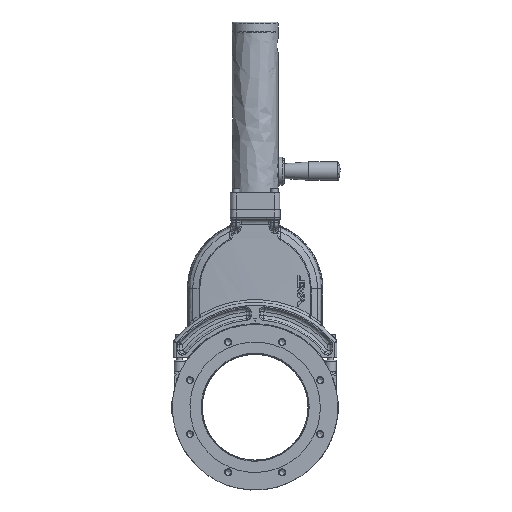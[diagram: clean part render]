
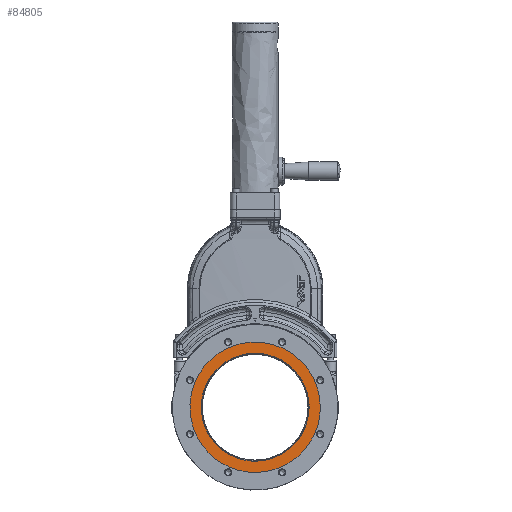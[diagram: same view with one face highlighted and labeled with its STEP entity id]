
A CAD part, top view. The second image highlights one B-rep face of the part: STEP entity #84805.
In plain terms, the highlighted free-form (B-spline) face has degree [1, 1] with [2, 2] control points.
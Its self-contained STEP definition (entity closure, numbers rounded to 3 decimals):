
#68755=CARTESIAN_POINT('V260',(76.563,0.0,
   35.));
#68756=VERTEX_POINT('V260',#68755);
#68762=CARTESIAN_POINT('E445',(76.563,0.0,
   35.));
#68763=CARTESIAN_POINT('E445',(76.562,
   -132.61,35.));
#68764=CARTESIAN_POINT('E445',(-38.281,
   -66.305,35.));
#68765=CARTESIAN_POINT('E445',(-153.125,0.,
   35.));
#68766=CARTESIAN_POINT('E445',(-38.281,
   66.305,35.));
#68767=CARTESIAN_POINT('E445',(76.563,
   132.61,35.));
#68768=CARTESIAN_POINT('E445',(76.563,0.0,
   35.));
#68776=(BOUNDED_CURVE()B_SPLINE_CURVE(2,(#68762,#68763,#68764,
   #68765,#68766,#68767,#68768),.CIRCULAR_ARC.,.T.,.U.)
   B_SPLINE_CURVE_WITH_KNOTS((3,2,2,3),(0.0,0.333,
   0.667,1.0),.UNSPECIFIED.)CURVE()
   GEOMETRIC_REPRESENTATION_ITEM()RATIONAL_B_SPLINE_CURVE((1.0,
   0.5,1.0,0.5,1.0,0.5,1.0)
   )REPRESENTATION_ITEM('E445'));
#68777=EDGE_CURVE('E445',#68756,#68756,#68776,.T.);
#84748=CARTESIAN_POINT('V554',(92.5,0.0,35.0));
#84749=VERTEX_POINT('V554',#84748);
#84750=CARTESIAN_POINT('E924',(92.5,0.0,35.0));
#84751=CARTESIAN_POINT('E924',(92.5,
   160.215,35.0));
#84752=CARTESIAN_POINT('E924',(-46.25,
   80.107,35.0));
#84753=CARTESIAN_POINT('E924',(-185.,0.,
   35.0));
#84754=CARTESIAN_POINT('E924',(-46.25,
   -80.107,35.0));
#84755=CARTESIAN_POINT('E924',(92.5,
   -160.215,35.0));
#84756=CARTESIAN_POINT('E924',(92.5,0.0,35.0));
#84764=(BOUNDED_CURVE()B_SPLINE_CURVE(2,(#84750,#84751,#84752,
   #84753,#84754,#84755,#84756),.CIRCULAR_ARC.,.T.,.U.)
   B_SPLINE_CURVE_WITH_KNOTS((3,2,2,3),(0.0,0.333,
   0.667,1.0),.UNSPECIFIED.)CURVE()
   GEOMETRIC_REPRESENTATION_ITEM()RATIONAL_B_SPLINE_CURVE((1.0,
   0.5,1.0,0.5,1.0,0.5,1.0)
   )REPRESENTATION_ITEM('E924'));
#84765=EDGE_CURVE('E924',#84749,#84749,#84764,.T.);
#84794=CARTESIAN_POINT('F388',(-118.5,
   -118.5,35.0));
#84795=CARTESIAN_POINT('F388',(-118.5,
   118.5,35.0));
#84796=CARTESIAN_POINT('F388',(118.5,
   -118.5,35.));
#84797=CARTESIAN_POINT('F388',(118.5,
   118.5,35.));
#84798=B_SPLINE_SURFACE_WITH_KNOTS('F388',1,1,((#84794,#84796),(
   #84795,#84797)),.PLANE_SURF.,.F.,.F.,.U.,(2,2),(2,2),(
   0.187,0.813),(0.187,
   0.813),.UNSPECIFIED.);
#84799=ORIENTED_EDGE('F387',*,*,#84765,.F.);
#84800=EDGE_LOOP('F388',(#84799));
#84801=FACE_OUTER_BOUND('F388',#84800,.F.);
#84802=ORIENTED_EDGE('E445',*,*,#68777,.F.);
#84803=EDGE_LOOP('F388',(#84802));
#84804=FACE_BOUND('F388',#84803,.F.);
#84805=ADVANCED_FACE('F388',(#84801,#84804),#84798,.F.);
